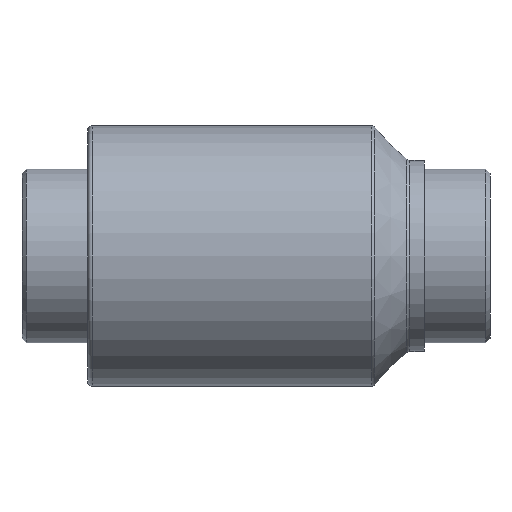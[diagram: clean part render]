
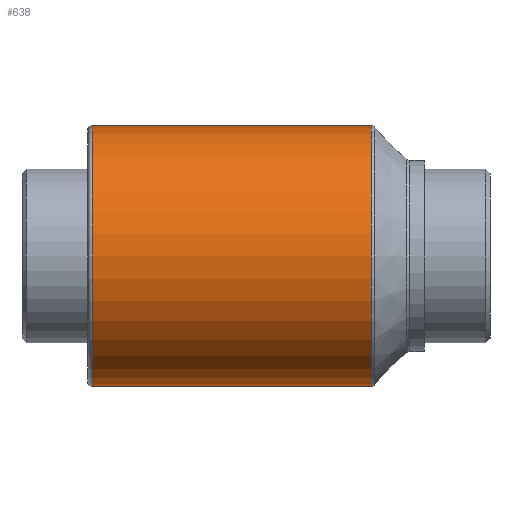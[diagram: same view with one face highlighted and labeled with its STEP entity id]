
A CAD part, front view. The second image highlights one B-rep face of the part: STEP entity #638.
In plain terms, the highlighted cylindrical face has radius 27 mm (diameter 54 mm), a full revolution.
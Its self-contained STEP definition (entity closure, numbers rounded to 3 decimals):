
#92=B_SPLINE_CURVE_WITH_KNOTS('',3,(#1009,#1010,#1011,#1012,#1013,#1014,
#1015,#1016,#1017,#1018,#1019,#1020,#1021,#1022,#1023,#1024,#1025,#1026,
#1027,#1028,#1029,#1030,#1031,#1032,#1033,#1034,#1035,#1036,#1037,#1038,
#1039,#1040,#1041,#1042),.UNSPECIFIED.,.T.,.F.,(4,2,2,2,2,2,2,2,2,2,2,2,
2,2,2,2,4),(0.,0.427,0.854,1.28,1.707,
2.133,2.56,2.987,3.414,3.841,
4.268,4.694,5.121,5.547,5.974,
6.401,6.828),.UNSPECIFIED.);
#94=CYLINDRICAL_SURFACE('',#691,27.);
#120=FACE_BOUND('',#193,.T.);
#121=FACE_BOUND('',#194,.T.);
#142=FACE_OUTER_BOUND('',#192,.T.);
#192=EDGE_LOOP('',(#436));
#193=EDGE_LOOP('',(#437));
#194=EDGE_LOOP('',(#438));
#256=CIRCLE('',#690,27.);
#257=CIRCLE('',#692,27.);
#302=VERTEX_POINT('',#1003);
#303=VERTEX_POINT('',#1006);
#304=VERTEX_POINT('',#1008);
#355=EDGE_CURVE('',#302,#302,#256,.T.);
#356=EDGE_CURVE('',#303,#303,#257,.T.);
#357=EDGE_CURVE('',#304,#304,#92,.T.);
#436=ORIENTED_EDGE('',*,*,#356,.F.);
#437=ORIENTED_EDGE('',*,*,#357,.T.);
#438=ORIENTED_EDGE('',*,*,#355,.F.);
#638=ADVANCED_FACE('',(#142,#120,#121),#94,.T.);
#690=AXIS2_PLACEMENT_3D('',#1004,#792,#793);
#691=AXIS2_PLACEMENT_3D('',#1005,#794,#795);
#692=AXIS2_PLACEMENT_3D('',#1007,#796,#797);
#792=DIRECTION('center_axis',(1.,0.,0.));
#793=DIRECTION('ref_axis',(0.,-1.,0.));
#794=DIRECTION('center_axis',(1.,0.,0.));
#795=DIRECTION('ref_axis',(0.,1.,0.));
#796=DIRECTION('center_axis',(-1.,0.,0.));
#797=DIRECTION('ref_axis',(0.,-1.,0.));
#1003=CARTESIAN_POINT('',(23.914,27.,0.));
#1004=CARTESIAN_POINT('Origin',(23.914,0.,
0.));
#1005=CARTESIAN_POINT('Origin',(-5.3,0.,0.));
#1006=CARTESIAN_POINT('',(-33.968,27.,0.));
#1007=CARTESIAN_POINT('Origin',(-33.968,0.,0.));
#1008=CARTESIAN_POINT('',(0.,24.577,-11.179));
#1009=CARTESIAN_POINT('Ctrl Pts',(0.,24.577,
-11.179));
#1010=CARTESIAN_POINT('Ctrl Pts',(1.423,24.577,-11.179));
#1011=CARTESIAN_POINT('Ctrl Pts',(2.928,24.714,-10.891));
#1012=CARTESIAN_POINT('Ctrl Pts',(5.676,25.188,-9.745));
#1013=CARTESIAN_POINT('Ctrl Pts',(6.921,25.516,-8.888));
#1014=CARTESIAN_POINT('Ctrl Pts',(8.887,26.118,-6.922));
#1015=CARTESIAN_POINT('Ctrl Pts',(9.745,26.433,-5.676));
#1016=CARTESIAN_POINT('Ctrl Pts',(10.891,26.877,-2.927));
#1017=CARTESIAN_POINT('Ctrl Pts',(11.179,27.,-1.422));
#1018=CARTESIAN_POINT('Ctrl Pts',(11.179,27.,1.422));
#1019=CARTESIAN_POINT('Ctrl Pts',(10.891,26.877,2.927));
#1020=CARTESIAN_POINT('Ctrl Pts',(9.745,26.433,5.676));
#1021=CARTESIAN_POINT('Ctrl Pts',(8.887,26.118,6.922));
#1022=CARTESIAN_POINT('Ctrl Pts',(6.921,25.516,8.888));
#1023=CARTESIAN_POINT('Ctrl Pts',(5.676,25.188,9.745));
#1024=CARTESIAN_POINT('Ctrl Pts',(2.928,24.714,10.891));
#1025=CARTESIAN_POINT('Ctrl Pts',(1.423,24.577,11.179));
#1026=CARTESIAN_POINT('Ctrl Pts',(-1.423,24.577,11.179));
#1027=CARTESIAN_POINT('Ctrl Pts',(-2.928,24.714,10.891));
#1028=CARTESIAN_POINT('Ctrl Pts',(-5.676,25.188,9.745));
#1029=CARTESIAN_POINT('Ctrl Pts',(-6.921,25.516,8.888));
#1030=CARTESIAN_POINT('Ctrl Pts',(-8.887,26.118,6.922));
#1031=CARTESIAN_POINT('Ctrl Pts',(-9.745,26.433,5.676));
#1032=CARTESIAN_POINT('Ctrl Pts',(-10.891,26.877,2.927));
#1033=CARTESIAN_POINT('Ctrl Pts',(-11.179,27.,1.422));
#1034=CARTESIAN_POINT('Ctrl Pts',(-11.179,27.,-1.422));
#1035=CARTESIAN_POINT('Ctrl Pts',(-10.891,26.877,-2.927));
#1036=CARTESIAN_POINT('Ctrl Pts',(-9.745,26.433,-5.676));
#1037=CARTESIAN_POINT('Ctrl Pts',(-8.887,26.118,-6.922));
#1038=CARTESIAN_POINT('Ctrl Pts',(-6.921,25.516,-8.888));
#1039=CARTESIAN_POINT('Ctrl Pts',(-5.676,25.188,-9.745));
#1040=CARTESIAN_POINT('Ctrl Pts',(-2.928,24.714,-10.891));
#1041=CARTESIAN_POINT('Ctrl Pts',(-1.423,24.577,-11.179));
#1042=CARTESIAN_POINT('Ctrl Pts',(0.,24.577,
-11.179));
